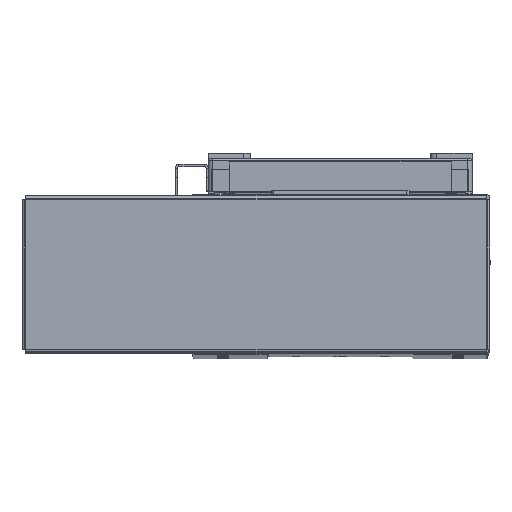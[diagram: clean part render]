
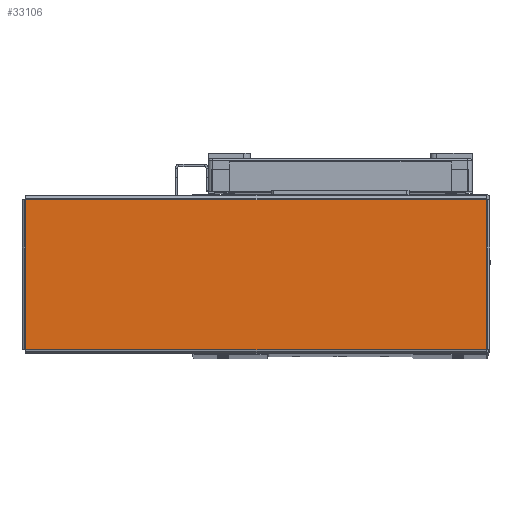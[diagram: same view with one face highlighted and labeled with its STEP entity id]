
A CAD part, top view. The second image highlights one B-rep face of the part: STEP entity #33106.
In plain terms, the highlighted planar face has unit normal (0, 0, 1) as drawn and (0, -1, 0) by its records, which use the part's own axes.
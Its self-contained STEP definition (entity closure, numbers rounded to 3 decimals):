
#3289 = VERTEX_POINT ( 'NONE', #45825 ) ;
#3294 = VERTEX_POINT ( 'NONE', #45823 ) ;
#3308 = VERTEX_POINT ( 'NONE', #45803 ) ;
#3362 = VERTEX_POINT ( 'NONE', #45911 ) ;
#6830 = LINE ( 'NONE', #10639, #6831 ) ;
#6831 = VECTOR ( 'NONE', #10677, 1000. ) ;
#6879 = VECTOR ( 'NONE', #11082, 1000. ) ;
#6882 = LINE ( 'NONE', #10979, #6895 ) ;
#6895 = VECTOR ( 'NONE', #10985, 1000. ) ;
#6900 = LINE ( 'NONE', #11058, #6879 ) ;
#6904 = VECTOR ( 'NONE', #11114, 1000. ) ;
#6929 = LINE ( 'NONE', #11096, #6904 ) ;
#9145 = AXIS2_PLACEMENT_3D ( 'NONE', #21257, #21223, #21249 ) ;
#10639 = CARTESIAN_POINT ( 'NONE',  ( -103.763, -1., 33.793 ) ) ;
#10677 = DIRECTION ( 'NONE',  ( 0., 0., -1. ) ) ;
#10979 = CARTESIAN_POINT ( 'NONE',  ( 103.793, -1., 33.763 ) ) ;
#10985 = DIRECTION ( 'NONE',  ( -1., 0., 0. ) ) ;
#11058 = CARTESIAN_POINT ( 'NONE',  ( 103.763, -1., -33.793 ) ) ;
#11082 = DIRECTION ( 'NONE',  ( 0., 0., 1. ) ) ;
#11096 = CARTESIAN_POINT ( 'NONE',  ( -103.793, -1., -33.763 ) ) ;
#11114 = DIRECTION ( 'NONE',  ( 1., 0., 0. ) ) ;
#16853 = ORIENTED_EDGE ( 'NONE', *, *, #39099, .T. ) ;
#16883 = ORIENTED_EDGE ( 'NONE', *, *, #39173, .T. ) ;
#16917 = ORIENTED_EDGE ( 'NONE', *, *, #39161, .T. ) ;
#16931 = ORIENTED_EDGE ( 'NONE', *, *, #39138, .T. ) ;
#21223 = DIRECTION ( 'NONE',  ( 0., 1., 0. ) ) ;
#21248 = PLANE ( 'NONE',  #9145 ) ;
#21249 = DIRECTION ( 'NONE',  ( 0., 0., 1. ) ) ;
#21257 = CARTESIAN_POINT ( 'NONE',  ( 0., -1., 0. ) ) ;
#25613 = FACE_OUTER_BOUND ( 'NONE', #35498, .T. ) ;
#33106 = ADVANCED_FACE ( 'NONE', ( #25613 ), #21248, .F. ) ;
#35498 = EDGE_LOOP ( 'NONE', ( #16931, #16853, #16883, #16917 ) ) ;
#39099 = EDGE_CURVE ( 'NONE', #3308, #3294, #6830, .T. ) ;
#39138 = EDGE_CURVE ( 'NONE', #3289, #3308, #6882, .T. ) ;
#39161 = EDGE_CURVE ( 'NONE', #3362, #3289, #6900, .T. ) ;
#39173 = EDGE_CURVE ( 'NONE', #3294, #3362, #6929, .T. ) ;
#45803 = CARTESIAN_POINT ( 'NONE',  ( -103.763, -1., 33.763 ) ) ;
#45823 = CARTESIAN_POINT ( 'NONE',  ( -103.763, -1., -33.763 ) ) ;
#45825 = CARTESIAN_POINT ( 'NONE',  ( 103.763, -1., 33.763 ) ) ;
#45911 = CARTESIAN_POINT ( 'NONE',  ( 103.763, -1., -33.763 ) ) ;
